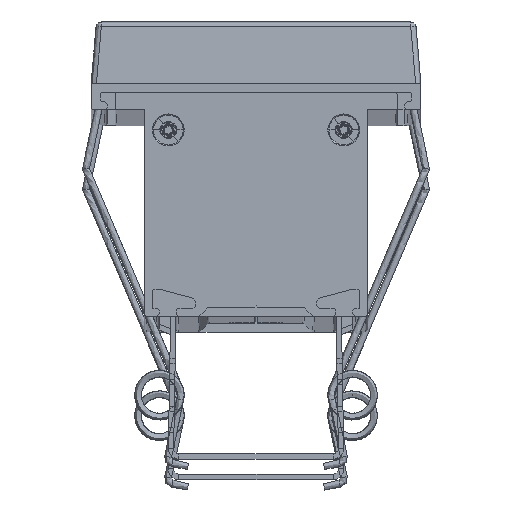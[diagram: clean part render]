
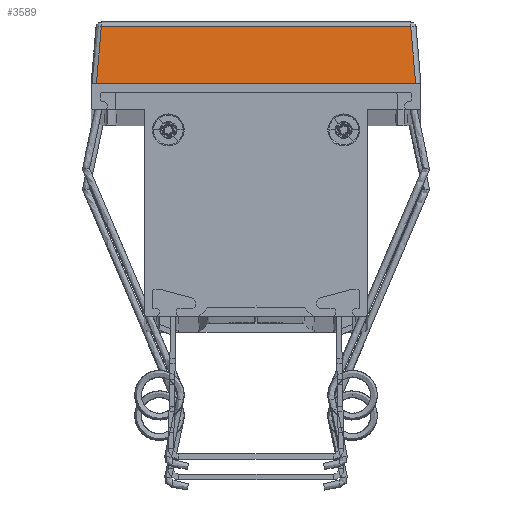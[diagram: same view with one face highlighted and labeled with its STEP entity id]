
A CAD part, top view. The second image highlights one B-rep face of the part: STEP entity #3589.
In plain terms, the highlighted planar face has unit normal (0, 0.087, 0.996) as drawn and (-0.996, 0.087, 0) by its records, which use the part's own axes.
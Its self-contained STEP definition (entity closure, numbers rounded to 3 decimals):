
#1045 = EDGE_LOOP ( 'NONE', ( #17369, #10082, #9667, #6025 ) ) ;
#1100 = DIRECTION ( 'NONE',  ( 0., 0., -1. ) ) ;
#1490 = VERTEX_POINT ( 'NONE', #13855 ) ;
#1944 = VERTEX_POINT ( 'NONE', #9700 ) ;
#2095 = VERTEX_POINT ( 'NONE', #4261 ) ;
#2366 = VECTOR ( 'NONE', #9001, 1000. ) ;
#3589 = ADVANCED_FACE ( 'NONE', ( #7598 ), #6056, .T. ) ;
#3652 = LINE ( 'NONE', #15475, #17835 ) ;
#4261 = CARTESIAN_POINT ( 'NONE',  ( -143.5, 0., -30.004 ) ) ;
#5315 = LINE ( 'NONE', #12552, #15201 ) ;
#5326 = EDGE_CURVE ( 'NONE', #1944, #2095, #3652, .T. ) ;
#5876 = DIRECTION ( 'NONE',  ( -0.087, -0.992, -0.087 ) ) ;
#6025 = ORIENTED_EDGE ( 'NONE', *, *, #5326, .T. ) ;
#6056 = PLANE ( 'NONE',  #12549 ) ;
#7033 = VECTOR ( 'NONE', #1100, 1000. ) ;
#7397 = DIRECTION ( 'NONE',  ( -0.087, -0.996, 0. ) ) ;
#7598 = FACE_OUTER_BOUND ( 'NONE', #1045, .T. ) ;
#7618 = CARTESIAN_POINT ( 'NONE',  ( -143.5, 0., 31. ) ) ;
#7905 = LINE ( 'NONE', #10794, #7033 ) ;
#7947 = EDGE_CURVE ( 'NONE', #1490, #9519, #5315, .T. ) ;
#9001 = DIRECTION ( 'NONE',  ( 0., 0., 1. ) ) ;
#9519 = VERTEX_POINT ( 'NONE', #13931 ) ;
#9667 = ORIENTED_EDGE ( 'NONE', *, *, #10847, .T. ) ;
#9700 = CARTESIAN_POINT ( 'NONE',  ( -142.574, 10.587, -29.078 ) ) ;
#10082 = ORIENTED_EDGE ( 'NONE', *, *, #7947, .T. ) ;
#10794 = CARTESIAN_POINT ( 'NONE',  ( -142.574, 10.587, -29.994 ) ) ;
#10847 = EDGE_CURVE ( 'NONE', #9519, #1944, #7905, .T. ) ;
#12549 = AXIS2_PLACEMENT_3D ( 'NONE', #12882, #15644, #7397 ) ;
#12552 = CARTESIAN_POINT ( 'NONE',  ( -143.508, -0.086, 30.011 ) ) ;
#12882 = CARTESIAN_POINT ( 'NONE',  ( -143.5, 0., 31. ) ) ;
#13385 = LINE ( 'NONE', #7618, #2366 ) ;
#13855 = CARTESIAN_POINT ( 'NONE',  ( -143.5, 0., 30.004 ) ) ;
#13931 = CARTESIAN_POINT ( 'NONE',  ( -142.574, 10.587, 29.078 ) ) ;
#14065 = EDGE_CURVE ( 'NONE', #2095, #1490, #13385, .T. ) ;
#14098 = DIRECTION ( 'NONE',  ( 0.087, 0.992, -0.087 ) ) ;
#15201 = VECTOR ( 'NONE', #14098, 1000. ) ;
#15475 = CARTESIAN_POINT ( 'NONE',  ( -143.04, 5.257, -29.544 ) ) ;
#15644 = DIRECTION ( 'NONE',  ( -0.996, 0.087, 0. ) ) ;
#17369 = ORIENTED_EDGE ( 'NONE', *, *, #14065, .T. ) ;
#17835 = VECTOR ( 'NONE', #5876, 1000. ) ;
